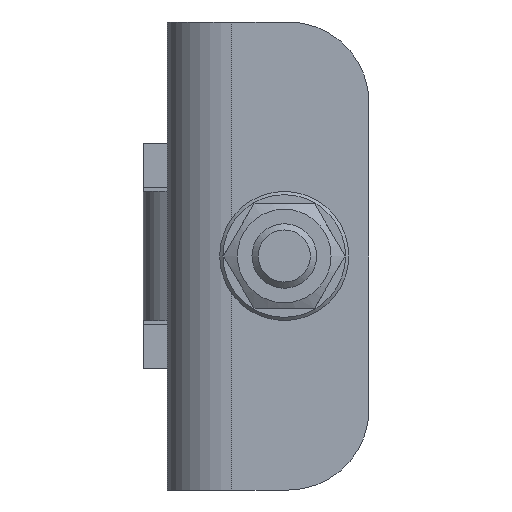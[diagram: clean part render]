
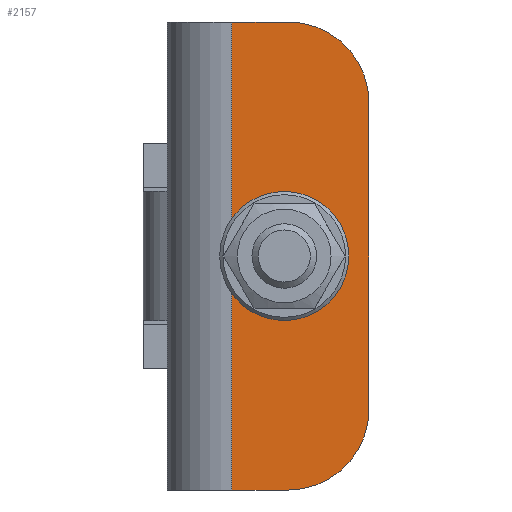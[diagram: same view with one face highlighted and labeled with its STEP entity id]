
A CAD part, left-side view. The second image highlights one B-rep face of the part: STEP entity #2157.
In plain terms, the highlighted planar face has unit normal (-1, 0, 0).
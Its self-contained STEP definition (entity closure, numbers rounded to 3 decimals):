
#130=PLANE('',#2313);
#193=LINE('',#3118,#399);
#201=LINE('',#3143,#407);
#233=LINE('',#3218,#439);
#236=LINE('',#3225,#442);
#269=LINE('',#3291,#475);
#270=LINE('',#3299,#476);
#399=VECTOR('',#2497,7.);
#407=VECTOR('',#2519,7.);
#439=VECTOR('',#2575,2.);
#442=VECTOR('',#2584,2.);
#475=VECTOR('',#2651,58.);
#476=VECTOR('',#2666,38.);
#611=FACE_BOUND('',#814,.T.);
#677=FACE_OUTER_BOUND('',#813,.T.);
#813=EDGE_LOOP('',(#1667,#1668,#1669,#1670,#1671,#1672));
#814=EDGE_LOOP('',(#1673,#1674,#1675,#1676));
#937=CIRCLE('',#2264,10.);
#942=CIRCLE('',#2272,10.);
#947=CIRCLE('',#2284,4.5);
#948=CIRCLE('',#2287,4.5);
#1005=VERTEX_POINT('',#3105);
#1006=VERTEX_POINT('',#3106);
#1010=VERTEX_POINT('',#3116);
#1018=VERTEX_POINT('',#3136);
#1019=VERTEX_POINT('',#3137);
#1020=VERTEX_POINT('',#3142);
#1049=VERTEX_POINT('',#3211);
#1050=VERTEX_POINT('',#3213);
#1051=VERTEX_POINT('',#3217);
#1052=VERTEX_POINT('',#3221);
#1205=EDGE_CURVE('',#1005,#1006,#937,.T.);
#1211=EDGE_CURVE('',#1010,#1005,#193,.T.);
#1220=EDGE_CURVE('',#1018,#1019,#942,.T.);
#1223=EDGE_CURVE('',#1019,#1020,#201,.T.);
#1258=EDGE_CURVE('',#1050,#1049,#947,.T.);
#1260=EDGE_CURVE('',#1051,#1050,#233,.T.);
#1262=EDGE_CURVE('',#1052,#1051,#948,.T.);
#1264=EDGE_CURVE('',#1049,#1052,#236,.T.);
#1297=EDGE_CURVE('',#1010,#1020,#269,.T.);
#1302=EDGE_CURVE('',#1006,#1018,#270,.T.);
#1667=ORIENTED_EDGE('',*,*,#1205,.F.);
#1668=ORIENTED_EDGE('',*,*,#1211,.F.);
#1669=ORIENTED_EDGE('',*,*,#1297,.T.);
#1670=ORIENTED_EDGE('',*,*,#1223,.F.);
#1671=ORIENTED_EDGE('',*,*,#1220,.F.);
#1672=ORIENTED_EDGE('',*,*,#1302,.F.);
#1673=ORIENTED_EDGE('',*,*,#1262,.T.);
#1674=ORIENTED_EDGE('',*,*,#1260,.T.);
#1675=ORIENTED_EDGE('',*,*,#1258,.T.);
#1676=ORIENTED_EDGE('',*,*,#1264,.T.);
#2157=ADVANCED_FACE('',(#677,#611),#130,.F.);
#2264=AXIS2_PLACEMENT_3D('',#3107,#2487,#2488);
#2272=AXIS2_PLACEMENT_3D('',#3138,#2513,#2514);
#2284=AXIS2_PLACEMENT_3D('',#3214,#2570,#2571);
#2287=AXIS2_PLACEMENT_3D('',#3222,#2579,#2580);
#2313=AXIS2_PLACEMENT_3D('',#3300,#2667,#2668);
#2487=DIRECTION('center_axis',(1.,0.,0.));
#2488=DIRECTION('ref_axis',(0.,0.707,-0.707));
#2497=DIRECTION('',(0.,1.,0.));
#2513=DIRECTION('center_axis',(1.,0.,0.));
#2514=DIRECTION('ref_axis',(0.,0.707,0.707));
#2519=DIRECTION('',(0.,-1.,0.));
#2570=DIRECTION('center_axis',(1.,0.,0.));
#2571=DIRECTION('ref_axis',(0.,0.,
-1.));
#2575=DIRECTION('',(0.,1.,0.));
#2579=DIRECTION('center_axis',(1.,0.,0.));
#2580=DIRECTION('ref_axis',(0.,0.,
1.));
#2584=DIRECTION('',(0.,-1.,0.));
#2651=DIRECTION('',(0.,0.,1.));
#2666=DIRECTION('',(0.,0.,1.));
#2667=DIRECTION('center_axis',(1.,0.,0.));
#2668=DIRECTION('ref_axis',(0.,0.,1.));
#3105=CARTESIAN_POINT('',(-50.,15.,-29.));
#3106=CARTESIAN_POINT('',(-50.,25.,-19.));
#3107=CARTESIAN_POINT('Origin',(-50.,15.,-19.));
#3116=CARTESIAN_POINT('',(-50.,8.,-29.));
#3118=CARTESIAN_POINT('',(-50.,8.,-29.));
#3136=CARTESIAN_POINT('',(-50.,25.,19.));
#3137=CARTESIAN_POINT('',(-50.,15.,29.));
#3138=CARTESIAN_POINT('Origin',(-50.,15.,19.));
#3142=CARTESIAN_POINT('',(-50.,8.,29.));
#3143=CARTESIAN_POINT('',(-50.,-10.096,29.));
#3211=CARTESIAN_POINT('',(-50.,15.5,4.5));
#3213=CARTESIAN_POINT('',(-50.,15.5,-4.5));
#3214=CARTESIAN_POINT('Origin',(-50.,15.5,0.));
#3217=CARTESIAN_POINT('',(-50.,13.5,-4.5));
#3218=CARTESIAN_POINT('',(-50.,12.738,-4.5));
#3221=CARTESIAN_POINT('',(-50.,13.5,4.5));
#3222=CARTESIAN_POINT('Origin',(-50.,13.5,0.));
#3225=CARTESIAN_POINT('',(-50.,13.738,4.5));
#3291=CARTESIAN_POINT('',(-50.,8.,0.));
#3299=CARTESIAN_POINT('',(-50.,25.,-29.));
#3300=CARTESIAN_POINT('Origin',(-50.,11.976,0.));
